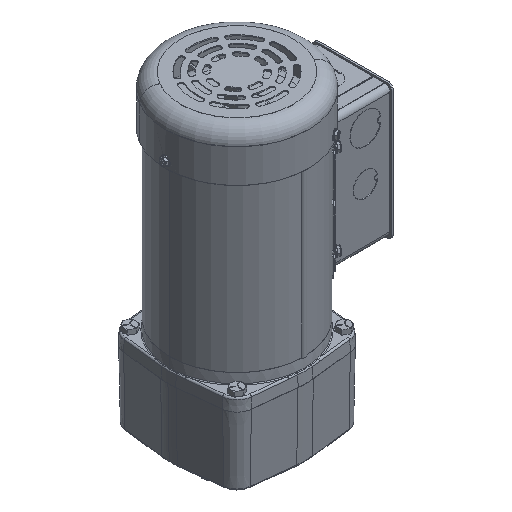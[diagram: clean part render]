
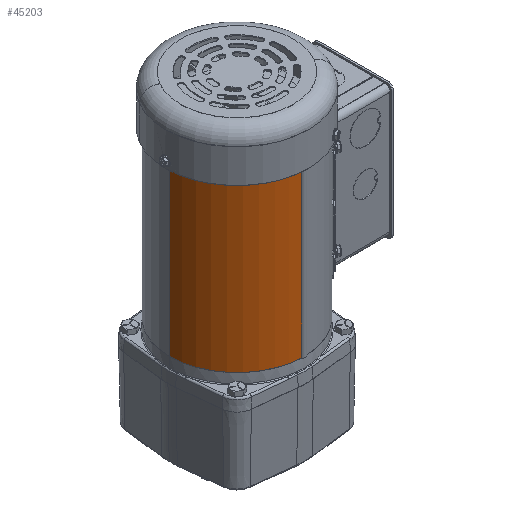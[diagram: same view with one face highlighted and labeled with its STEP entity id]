
A CAD part, isometric view. The second image highlights one B-rep face of the part: STEP entity #45203.
In plain terms, the highlighted cylindrical face has radius 61.773 mm (diameter 123.546 mm), a partial arc.
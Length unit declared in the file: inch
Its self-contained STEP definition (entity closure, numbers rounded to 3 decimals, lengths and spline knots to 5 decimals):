
#4947 = CIRCLE ( 'NONE', #11505, 2.432 ) ;
#6764 = DIRECTION ( 'NONE',  ( 0., 0., 1. ) ) ;
#11439 = FACE_OUTER_BOUND ( 'NONE', #63957, .T. ) ;
#11505 = AXIS2_PLACEMENT_3D ( 'NONE', #107099, #98293, #72484 ) ;
#15239 = CARTESIAN_POINT ( 'NONE',  ( 0., 0., -7.4035 ) ) ;
#25721 = DIRECTION ( 'NONE',  ( 0., 0., 1. ) ) ;
#26134 = VECTOR ( 'NONE', #99265, 39.37008 ) ;
#27451 = CARTESIAN_POINT ( 'NONE',  ( -0.09, -2.43033, -7.4035 ) ) ;
#29294 = CYLINDRICAL_SURFACE ( 'NONE', #33593, 2.432 ) ;
#31087 = VERTEX_POINT ( 'NONE', #91254 ) ;
#32067 = EDGE_CURVE ( 'NONE', #100988, #31087, #86856, .T. ) ;
#33593 = AXIS2_PLACEMENT_3D ( 'NONE', #15239, #6764, #86146 ) ;
#33815 = DIRECTION ( 'NONE',  ( 1., 0., 0. ) ) ;
#36400 = EDGE_CURVE ( 'NONE', #100988, #41245, #4947, .T. ) ;
#41245 = VERTEX_POINT ( 'NONE', #27451 ) ;
#43044 = ORIENTED_EDGE ( 'NONE', *, *, #32067, .F. ) ;
#43615 = ORIENTED_EDGE ( 'NONE', *, *, #36400, .T. ) ;
#45203 = ADVANCED_FACE ( 'NONE', ( #11439 ), #29294, .T. ) ;
#50760 = LINE ( 'NONE', #84931, #103138 ) ;
#54465 = AXIS2_PLACEMENT_3D ( 'NONE', #85873, #25721, #33815 ) ;
#56972 = ORIENTED_EDGE ( 'NONE', *, *, #97808, .F. ) ;
#61253 = CIRCLE ( 'NONE', #54465, 2.432 ) ;
#63957 = EDGE_LOOP ( 'NONE', ( #43044, #43615, #74873, #56972 ) ) ;
#68363 = DIRECTION ( 'NONE',  ( 0., 0., 1. ) ) ;
#69201 = VERTEX_POINT ( 'NONE', #88860 ) ;
#72484 = DIRECTION ( 'NONE',  ( 1., 0., 0. ) ) ;
#74873 = ORIENTED_EDGE ( 'NONE', *, *, #78449, .T. ) ;
#78449 = EDGE_CURVE ( 'NONE', #41245, #69201, #50760, .T. ) ;
#84931 = CARTESIAN_POINT ( 'NONE',  ( -0.09, -2.43033, -7.4035 ) ) ;
#85873 = CARTESIAN_POINT ( 'NONE',  ( 0., 0., -1.4035 ) ) ;
#86146 = DIRECTION ( 'NONE',  ( 1., 0., 0. ) ) ;
#86856 = LINE ( 'NONE', #106945, #26134 ) ;
#88860 = CARTESIAN_POINT ( 'NONE',  ( -0.09, -2.43033, -1.4035 ) ) ;
#91254 = CARTESIAN_POINT ( 'NONE',  ( -2.432, 0., -1.4035 ) ) ;
#97808 = EDGE_CURVE ( 'NONE', #31087, #69201, #61253, .T. ) ;
#98293 = DIRECTION ( 'NONE',  ( 0., 0., 1. ) ) ;
#99265 = DIRECTION ( 'NONE',  ( 0., 0., 1. ) ) ;
#100988 = VERTEX_POINT ( 'NONE', #109336 ) ;
#103138 = VECTOR ( 'NONE', #68363, 39.37008 ) ;
#106945 = CARTESIAN_POINT ( 'NONE',  ( -2.432, 0., -7.4035 ) ) ;
#107099 = CARTESIAN_POINT ( 'NONE',  ( 0., 0., -7.4035 ) ) ;
#109336 = CARTESIAN_POINT ( 'NONE',  ( -2.432, 0., -7.4035 ) ) ;
